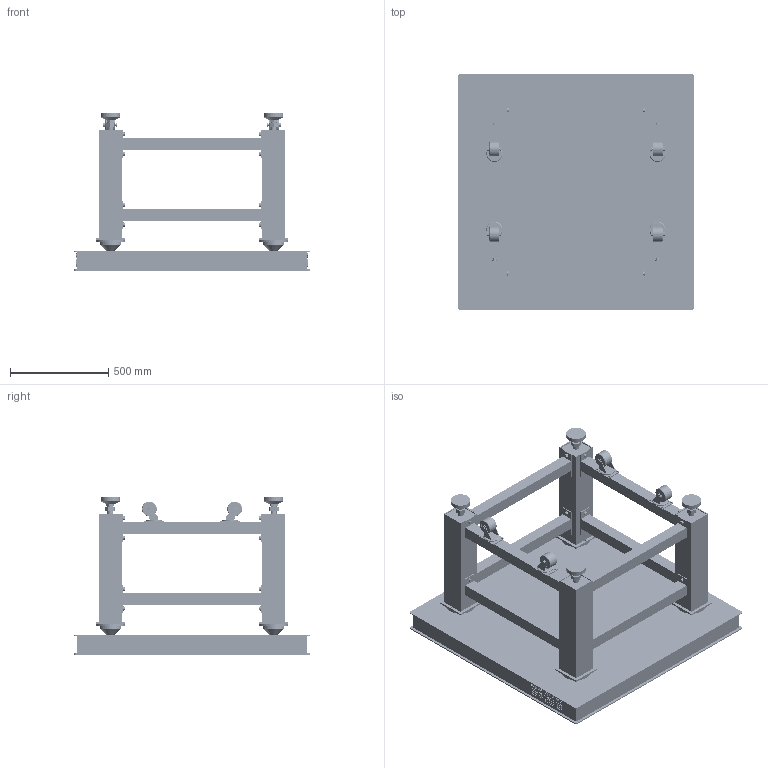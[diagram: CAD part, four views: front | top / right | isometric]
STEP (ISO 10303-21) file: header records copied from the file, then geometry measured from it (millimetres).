
FILE_DESCRIPTION (( 'STEP AP214' ), '1' );
FILE_NAME ('1200℅1200℅100+120袪倛郯攝路淥す怢.STEP', '2024-10-10T08:49:07', ( '' ), ( '' ), 'SwSTEP 2.0', 'SolidWorks 2022', '' );
FILE_SCHEMA (( 'AUTOMOTIVE_DESIGN' ));
Length unit declared in the file: millimetre
Products named in the file (1): 1200×1200×100+120锥形阻尼隔振平台
Bounding box: 1200 x 1200 x 800 mm (x, y, z)
Volume: 196144714.1 mm3; surface area: 7481471.5 mm2
Topology: 57 solids, 57 shells, 11141 faces, 25295 edges, 16670 vertices
Faces by surface type: cylinder 5973, plane 5028, cone 64, bspline 60, torus 16
Entity records: 369547 total; most frequent: CARTESIAN_POINT 110871, DIRECTION 56849, ORIENTED_EDGE 50590, EDGE_CURVE 25295, AXIS2_PLACEMENT_3D 22096, VERTEX_POINT 16670, EDGE_LOOP 13711, LINE 12657
